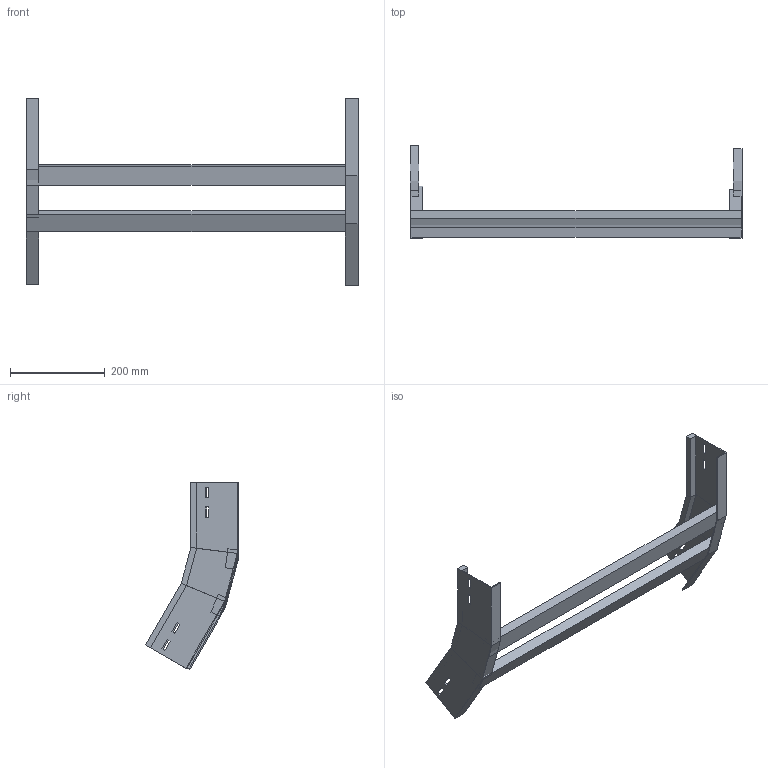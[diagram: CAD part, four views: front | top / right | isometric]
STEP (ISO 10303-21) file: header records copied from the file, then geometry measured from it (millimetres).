
FILE_DESCRIPTION (( 'STEP AP214' ), '1' );
FILE_NAME ('A2X32B3D700XX.step', '2025-03-20T09:57:13', ( '' ), ( '' ), 'SwSTEP 2.0', 'SolidWorks 2023', '' );
FILE_SCHEMA (( 'AUTOMOTIVE_DESIGN' ));
Length unit declared in the file: millimetre
Products named in the file (3): TRAVERSINO_700; LONGH.SALITA_30°_H100_R300; A2X32B3D700XX
Assembly tree (4 placements, depth 2):
  A2X32B3D700XX
    LONGH.SALITA_30°_H100_R300  x2
    TRAVERSINO_700  x2
Bounding box: 700 x 195.25 x 394.23 mm (x, y, z)
Volume: 1464886.2 mm3; surface area: 396979.2 mm2
Topology: 4 solids, 4 shells, 96 faces, 232 edges, 144 vertices
Faces by surface type: plane 96
Entity records: 1472 total; most frequent: CARTESIAN_POINT 243, ORIENTED_EDGE 232, DIRECTION 226, LINE 116, VECTOR 116, EDGE_CURVE 116, VERTEX_POINT 72, EDGE_LOOP 56
